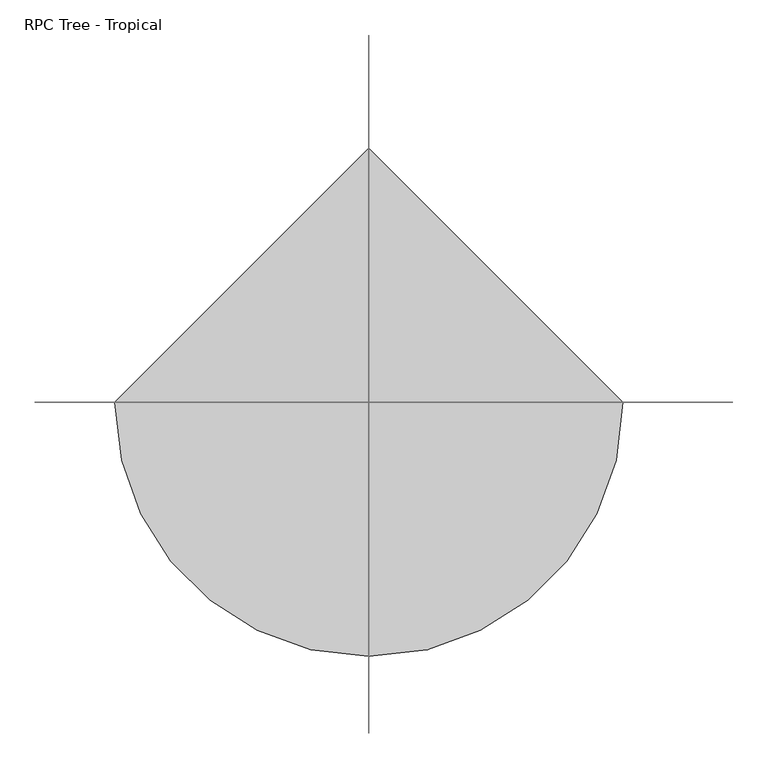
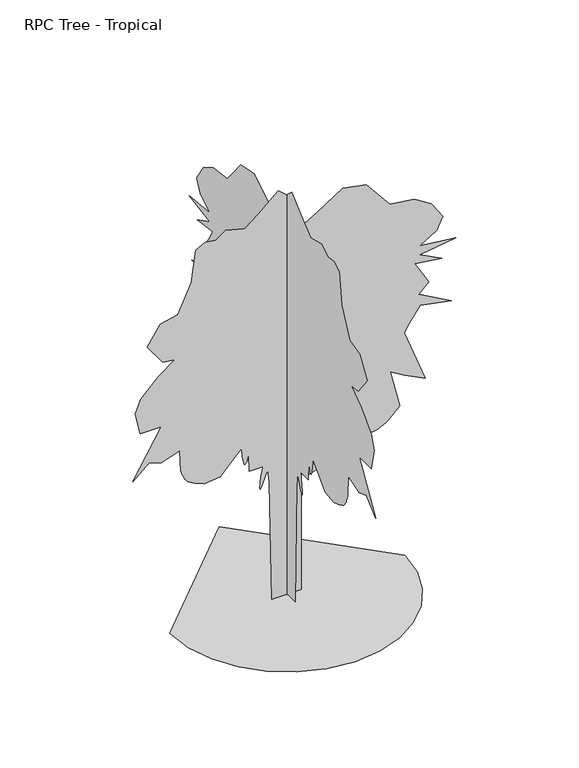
"""IFC4 building model written with IfcOpenShell, lengths in millimetres: geographic element geometry, RPC Tree - Tropical : Windmill Palm - 2.4 Meters."""

from ifc_helpers import new_model, si_unit, origin, place, context, project, spatial, triangles, source, transform, mapped, element, save


def rpc_tree_tropical_0b38fe0e(model_context):
    return source(origin(), model_context, "Body", "Tessellation", [
        triangles([(-0.0239184, -79.4097514, 0.0551874), (-0.0239176, -91.9790423, 697.2397087), (-0.0239171, -101.3513263, 772.2174723), (-0.0239166, -110.6598516, 747.6798712), (-0.0239159, -119.5858783, 724.5373158), (-0.0239154, -127.7469081, 704.1797647), (-0.0239151, -134.7601792, 688.0047346), (-0.0239146, -140.2432021, 677.4021841), (-0.0239146, -143.8137145, 673.7671589), (-0.0239144, -145.0887184, 678.4947046), (-0.0239144, -144.6334592, 689.5071865), (-0.0239146, -143.35821, 703.469779), (-0.0239146, -141.3999538, 719.8923231), (-0.0239149, -138.8951921, 738.2798635), (-0.0239151, -135.9806806, 758.1449301), (-0.0239151, -132.7926757, 778.9949656), (-0.0239154, -129.4681603, 800.3350874), (-0.0239109, -204.4468958, 800.3350874), (-0.0239106, -207.5709057, 900.3053661), (-0.0239104, -211.5784191, 886.3978575), (-0.0239101, -215.5314481, 873.3927647), (-0.0239101, -219.3749454, 862.18778), (-0.0239099, -223.0547171, 853.6902609), (-0.0239096, -226.5159702, 848.8002251), (-0.0239094, -229.7037299, 848.4176903), (-0.0239091, -232.5637479, 853.4452177), (-0.0239091, -235.1505086, 862.662751), (-0.0239089, -237.5732532, 874.0103142), (-0.0239089, -239.8595235, 887.1353125), (-0.0239086, -242.0362802, 901.6828983), (-0.0239086, -244.1312831, 917.2929193), (-0.0239084, -246.1715292, 933.6154696), (-0.0239084, -248.1842879, 950.2930126), (-0.0239014, -366.9011876, 825.3276752), (-0.0238961, -454.3764441, 815.9551369), (-0.0238949, -471.7089981, 822.6501497), (-0.0238939, -488.6040788, 829.3451626), (-0.0238931, -504.6241038, 836.0401754), (-0.0238921, -519.3341798, 842.7327175), (-0.0238914, -532.296688, 849.4277304), (-0.0238906, -543.0717207, 856.1227432), (-0.0238901, -551.2217683, 862.8177561), (-0.0238899, -557.5517962, 870.2402681), (-0.0238896, -563.2268131, 878.9753454), (-0.0238891, -568.3543344, 888.8028706), (-0.0238889, -573.0468169, 899.5053423), (-0.0238886, -577.4093413, 910.8629339), (-0.0238884, -581.5518574, 922.6579262), (-0.0238881, -585.5868582, 934.6704924), (-0.0238879, -591.8368764, 1056.5108751), (-0.0238816, -694.9322187, 1022.1457489), (-0.0238776, -763.6624712, 1047.1383368), (-0.0238721, -854.2602116, 965.9130621), (-0.0238816, -694.9322187, 1234.5864155), (-0.0238746, -813.6475742, 1234.5864155), (-0.0238729, -841.7651894, 1359.5492821), (-0.0238749, -810.5226196, 1437.6520729), (-0.0238806, -713.6772955, 1537.6224243), (-0.0238861, -619.9519844, 1606.3551476), (-0.0238821, -688.6822369, 1615.7252151), (-0.0238771, -773.0350096, 1731.3180141), (-0.0238814, -701.1797298, 1843.7858585), (-0.0238871, -604.3319349, 1865.6534191), (-0.0238916, -529.3542077, 2028.1090553), (-0.0238931, -504.3616199, 2212.429636), (-0.0238961, -451.2514532, 2240.5471058), (-0.0238996, -391.8937391, 2231.1745674), (-0.0239031, -335.6585815, 2271.7872047), (-0.0239094, -229.439738, 2243.6722057), (-0.0239139, -154.4612477, 2303.0299198), (-0.0239206, -41.9933852, 2399.8776421), (-0.0239259, 45.4816443, 2321.7749966), (-0.0239259, 45.4816443, 2228.0496128), (-0.0239291, 101.7153212, 2156.1968765), (-0.0239339, 179.81833, 2199.9344685), (-0.0239421, 317.2785261, 2290.5322815), (-0.0239499, 448.4914473, 2265.5397663), (-0.0239546, 529.7166856, 2165.5694149), (-0.0239576, 579.7043684, 2103.0867462), (-0.0239659, 717.1648006, 2084.3416695), (-0.0239716, 814.0125956, 2024.9839554), (-0.0239754, 876.4927935, 1928.1362331), (-0.0239734, 842.1276672, 1859.4059807), (-0.0239676, 748.4048996, 1800.0482666), (-0.0239796, 948.3480005, 1778.180706), (-0.0239676, 748.4048996, 1746.9381363), (-0.0239749, 870.2452824, 1684.4553223), (-0.0239661, 720.2872845, 1703.200399), (-0.0239706, 798.3900753, 1568.864994), (-0.0239674, 742.1573885, 1515.7548637), (-0.0239781, 923.3554853, 1412.6595577), (-0.0239679, 751.5299269, 1447.0246113), (-0.0239641, 689.0471855, 1362.674382), (-0.0239624, 660.9296431, 1315.8116901), (-0.0239696, 779.6449986, 1006.5256994), (-0.0239626, 664.0545977, 1062.7609297), (-0.0239579, 582.8268522, 1112.7460327), (-0.0239609, 635.9370552, 894.057855), (-0.0239571, 570.33183, 828.4526299), (-0.0239564, 557.6242845, 821.1375967), (-0.0239556, 545.0017264, 814.1250887), (-0.0239549, 532.5416948, 807.7126167), (-0.0239541, 520.3266701, 802.2025606), (-0.0239534, 508.4416397, 797.8950474), (-0.0239526, 496.9641063, 795.0875153), (-0.0239521, 485.9815644, 794.0875763), (-0.0239514, 475.0865172, 794.9075117), (-0.0239509, 463.8664899, 797.2025751), (-0.0239501, 452.371443, 800.727578), (-0.0239494, 440.6588948, 805.235079), (-0.0239486, 428.7813858, 810.4825785), (-0.0239479, 416.7938181, 816.2200916), (-0.0239471, 404.7537827, 822.202648), (-0.0239471, 401.3562793, 826.1926661), (-0.0239469, 397.6587579, 830.0176506), (-0.0239466, 393.358766, 833.5151842), (-0.0239461, 388.1587564, 836.5227041), (-0.0239459, 381.7562038, 838.872706), (-0.0239454, 373.8486923, 840.4026999), (-0.0239449, 364.1411817, 840.9477247), (-0.0239441, 351.5161165, 842.4051939), (-0.0239431, 335.4485653, 846.4851774), (-0.0239419, 316.5135292, 852.7527454), (-0.0239406, 295.2834479, 860.7677359), (-0.0239394, 272.33087, 870.0952915), (-0.0239379, 248.2297975, 880.295323), (-0.0239364, 223.5557221, 890.9328278), (-0.0239341, 182.9423399, 844.0726793), (-0.0239341, 182.9423399, 765.9699612), (-0.0239354, 204.8106636, 690.9921976), (-0.0239309, 129.8324186, 665.9996098), (-0.0239281, 86.0950265, 787.8375217), (-0.0239286, 86.7090242, 0.0), (-656.1204889, -2.5e-06, 0.2095084), (-638.7804136, -150.2749844, 0.2095089), (-589.4027226, -288.2784249, 0.2095104), (-511.9349585, -410.0563296, 0.2095127), (-410.3371264, -511.6566324, 0.2095157), (-288.559258, -589.1218895, 0.2095194), (-150.5555632, -638.4995441, 0.2095234), (-0.2807655, -655.8396194, 0.2095279), (149.9941512, -638.4995441, 0.2095324), (287.9975917, -589.1218895, 0.2095364), (409.7754965, -511.6541253, 0.2095402), (511.3757993, -410.0563296, 0.2095432), (588.8410563, -288.2784249, 0.2095454), (638.2186747, -150.27473, 0.2095469), (655.55875, 5.73e-05, 0.2095474), (-0.2808805, 655.8396194, 0.2095279), (-87.7383582, 0.0001432, 0.1864386), (-100.3076491, 0.000104, 697.3697153), (-109.6799332, 9.81e-05, 772.3499496), (-118.9884584, 0.0001008, 747.8124212), (-127.9144851, 0.0001007, 724.6673223), (-136.0752606, 0.0001035, 704.3122421), (-143.0885407, 0.0001033, 688.1346685), (-148.5717998, 0.0001032, 677.5321907), (-152.142067, 0.0001058, 673.8996363), (-153.4173253, 0.0001027, 678.627182), (-152.9618298, 0.0001024, 689.6371931), (-151.6868168, 0.0001021, 703.5997856), (-149.7285606, 0.0001018, 720.0223297), (-147.2237989, 0.0001015, 738.4123409), (-144.3090422, 9.83e-05, 758.2774075), (-141.1212826, 9.79e-05, 779.1249722), (-137.7967671, 9.76e-05, 800.465094), (-212.7752755, 9.66e-05, 800.465094), (-215.8992854, 9.05e-05, 900.4379162), (-219.907035, 9.06e-05, 886.5303349), (-223.8598097, 9.35e-05, 873.5227713), (-227.7035613, 9.35e-05, 862.3202574), (-231.383333, 9.34e-05, 853.8227383), (-234.8443318, 9.32e-05, 848.9302317), (-238.0323458, 9.29e-05, 848.5476969), (-240.8921094, 9.25e-05, 853.5752243), (-243.4791245, 9.2e-05, 862.7927576), (-245.9018691, 9.15e-05, 874.1427916), (-248.187885, 9.09e-05, 887.2678625), (-250.364133, 9.03e-05, 901.8129049), (-252.4591541, 8.96e-05, 917.4254694), (-254.4991459, 8.89e-05, 933.7454762), (-256.5116502, 8.83e-05, 950.4230192), (-375.229531, 9.57e-05, 825.4601526), (-462.7047875, 9.68e-05, 816.0876143), (-480.0373415, 9.51e-05, 822.7801563), (-496.9324222, 9.62e-05, 829.4751692), (-512.9524472, 9.46e-05, 836.170182), (-527.6625232, 9.31e-05, 842.8651949), (-540.6250314, 9.46e-05, 849.5602077), (-551.4001004, 9.34e-05, 856.2527498), (-559.5501117, 9.25e-05, 862.9477627), (-565.8801395, 9.17e-05, 870.3702747), (-571.5551565, 9.1e-05, 879.1052794), (-576.6826778, 9.02e-05, 888.9328772), (-581.3751966, 9.23e-05, 899.6353489), (-585.7376847, 9.16e-05, 910.9929405), (-589.8802008, 9.09e-05, 922.7879328), (-593.9152379, 9.02e-05, 934.8029697), (-600.1652561, 8.02e-05, 1056.6433525), (-703.2606348, 8.35e-05, 1022.278299), (-771.9908146, 8.24e-05, 1047.2708868), (-862.5886276, 8.82e-05, 966.0430687), (-703.2606348, 7.15e-05, 1234.7164948), (-821.9759903, 7.23e-05, 1234.7164948), (-850.0936054, 6.32e-05, 1359.6818321), (-818.850963, 5.79e-05, 1437.784623), (-722.0056389, 5.21e-05, 1537.7549744), (-628.2804005, 4.98e-05, 1606.4850815), (-697.0105803, 4.92e-05, 1615.8576199), (-781.363353, 4.11e-05, 1731.4505642), (-709.5081459, 3.55e-05, 1843.9159378), (-612.660351, 3.2e-05, 1865.7859692), (-537.6825511, 2.24e-05, 2028.2389893), (-512.6899632, 1.34e-05, 2212.5620407), (-459.5797966, 1.15e-05, 2240.6796558), (-400.2220825, 1.14e-05, 2231.3071175), (-343.9869249, 9.4e-06, 2271.9197548), (-237.7683539, 1.11e-05, 2243.8021397), (-162.7896093, 7.5e-06, 2303.1598537), (-50.3217376, 3e-07, 2400.0077213), (37.1530375, 7.5e-06, 2321.9049305), (37.1530375, 1.32e-05, 2228.1821629), (93.3867235, 1.75e-05, 2156.3269558), (171.4897141, 1.45e-05, 2200.0645477), (308.9501827, 6.9e-06, 2290.6648315), (440.1631039, 1.07e-05, 2265.6723164), (521.3883422, 1.52e-05, 2165.6994942), (571.376025, 1.87e-05, 2103.2166801), (708.8363846, 2e-05, 2084.4742195), (805.6817087, 2.47e-05, 2025.1140347), (868.1644501, 3.03e-05, 1928.2686378), (833.7993238, 3.5e-05, 1859.5383854), (740.0764835, 3.71e-05, 1800.1808167), (940.0196571, 3.83e-05, 1778.31064), (740.0764835, 4.15e-05, 1747.070541), (861.9168663, 4.28e-05, 1684.5878723), (711.9589411, 4.32e-05, 1703.3329491), (790.0616592, 5.13e-05, 1568.9950733), (733.8289724, 5.36e-05, 1515.8874138), (915.0270693, 6.14e-05, 1412.7894917), (743.2015108, 5.94e-05, 1447.1571613), (680.7188421, 6.2e-05, 1362.8043159), (652.601227, 6.67e-05, 1315.9442402), (771.3165825, 8.36e-05, 1006.6582495), (655.7262543, 8.02e-05, 1062.8909363), (574.4985088, 7.72e-05, 1112.8760393), (627.6086391, 9.14e-05, 894.1903324), (562.0034866, 9.61e-05, 828.5826365), (549.2959411, 9.52e-05, 821.2701468), (536.673383, 9.71e-05, 814.2550953), (524.2133514, 9.62e-05, 807.8450941), (511.9983267, 9.81e-05, 802.3325672), (500.1132963, 9.72e-05, 798.025054), (488.6357265, 9.63e-05, 795.2200653), (477.6507139, 9.82e-05, 794.2175102), (466.7581738, 9.72e-05, 795.0375183), (455.5381465, 9.61e-05, 797.3325817), (444.0430996, 9.79e-05, 800.8575846), (432.3305514, 9.67e-05, 805.3675564), (420.4530424, 9.55e-05, 810.6125851), (408.4654747, 9.71e-05, 816.3500982), (396.4254393, 9.58e-05, 822.3351254), (393.0279359, 9.54e-05, 826.3251434), (389.3304145, 9.5e-05, 830.150128), (385.0304226, 9.45e-05, 833.6476616), (379.830413, 9.39e-05, 836.6527107), (373.4278605, 9.33e-05, 839.0027126), (365.5203489, 9.54e-05, 840.5327065), (355.8128019, 9.45e-05, 841.0802021), (343.1877731, 9.34e-05, 842.5376713), (327.1202219, 9.47e-05, 846.6177275), (308.1851495, 9.28e-05, 852.882752), (286.9550863, 9.35e-05, 860.8977425), (264.0025084, 9.41e-05, 870.2252981), (239.9011816, 9.16e-05, 880.4278004), (215.2271062, 9.2e-05, 891.0653778), (174.613724, 9.55e-05, 844.2026859), (174.613724, 9.78e-05, 766.0999678), (196.4822838, 0.000102, 691.1222042), (121.504057, 0.0001047, 666.1296164), (77.7664196, 9.71e-05, 787.9699991), (78.3804265, 0.0001436, 0.1312562)], [[85, 84, 86], [53, 52, 54], [91, 90, 92], [87, 86, 88], [95, 94, 96], [96, 94, 97], [9, 8, 10], [52, 51, 54], [51, 50, 54], [1, 133, 2], [133, 132, 2], [2, 132, 3], [131, 130, 132], [130, 129, 132], [129, 128, 132], [18, 17, 19], [71, 70, 72], [72, 70, 73], [10, 8, 11], [8, 7, 11], [11, 7, 12], [7, 6, 12], [12, 6, 13], [6, 5, 13], [13, 5, 14], [5, 4, 14], [14, 4, 15], [4, 3, 15], [15, 3, 16], [16, 3, 17], [55, 54, 56], [89, 88, 90], [56, 54, 57], [57, 54, 58], [61, 60, 62], [62, 60, 63], [60, 59, 63], [25, 24, 26], [24, 23, 26], [26, 23, 27], [23, 22, 27], [27, 22, 28], [22, 21, 28], [28, 21, 29], [21, 20, 29], [29, 20, 30], [20, 19, 30], [30, 19, 31], [82, 81, 83], [83, 81, 84], [81, 80, 84], [80, 79, 84], [70, 69, 73], [98, 97, 99], [31, 19, 32], [99, 97, 100], [58, 54, 59], [100, 97, 101], [101, 97, 102], [102, 97, 103], [103, 97, 104], [104, 97, 105], [105, 97, 106], [106, 97, 107], [107, 97, 108], [108, 97, 109], [109, 97, 110], [110, 97, 111], [111, 97, 112], [112, 97, 113], [113, 97, 114], [114, 97, 115], [115, 97, 116], [116, 97, 117], [117, 97, 118], [118, 97, 119], [119, 97, 120], [120, 97, 121], [121, 97, 122], [122, 97, 123], [123, 97, 124], [124, 97, 125], [125, 97, 126], [126, 97, 127], [65, 64, 66], [66, 64, 67], [68, 67, 69], [67, 64, 69], [3, 132, 17], [73, 69, 74], [69, 64, 74], [64, 63, 74], [63, 59, 74], [17, 132, 19], [132, 128, 19], [128, 127, 19], [92, 90, 93], [76, 75, 77], [77, 75, 78], [78, 75, 79], [79, 75, 84], [75, 74, 84], [74, 59, 84], [84, 59, 86], [86, 59, 88], [88, 59, 90], [90, 59, 93], [93, 59, 94], [94, 59, 97], [97, 59, 127], [127, 59, 19], [32, 19, 33], [19, 59, 33], [59, 54, 33], [54, 50, 33], [33, 50, 34], [50, 49, 34], [34, 49, 35], [35, 49, 36], [36, 49, 37], [49, 48, 37], [37, 48, 38], [48, 47, 38], [38, 47, 39], [47, 46, 39], [39, 46, 40], [46, 45, 40], [45, 44, 40], [40, 44, 41], [44, 43, 41], [41, 43, 42], [148, 149, 134], [147, 148, 134], [147, 134, 135], [146, 147, 135], [146, 135, 136], [146, 136, 137], [145, 146, 137], [144, 145, 137], [144, 137, 138], [144, 138, 139], [144, 139, 140], [144, 140, 141], [144, 141, 142], [144, 142, 143], [233, 234, 235], [201, 202, 203], [239, 240, 241], [235, 236, 237], [243, 244, 245], [243, 245, 246], [157, 158, 159], [200, 201, 203], [199, 200, 203], [282, 150, 151], [281, 282, 151], [281, 151, 152], [279, 280, 281], [278, 279, 281], [277, 278, 281], [166, 167, 168], [219, 220, 221], [219, 221, 222], [157, 159, 160], [156, 157, 160], [156, 160, 161], [155, 156, 161], [155, 161, 162], [154, 155, 162], [154, 162, 163], [153, 154, 163], [153, 163, 164], [152, 153, 164], [152, 164, 165], [152, 165, 166], [203, 204, 205], [237, 238, 239], [203, 205, 206], [203, 206, 207], [209, 210, 211], [209, 211, 212], [208, 209, 212], [173, 174, 175], [172, 173, 175], [172, 175, 176], [171, 172, 176], [171, 176, 177], [170, 171, 177], [170, 177, 178], [169, 170, 178], [169, 178, 179], [168, 169, 179], [168, 179, 180], [230, 231, 232], [230, 232, 233], [229, 230, 233], [228, 229, 233], [218, 219, 222], [246, 247, 248], [168, 180, 181], [246, 248, 249], [203, 207, 208], [246, 249, 250], [246, 250, 251], [246, 251, 252], [246, 252, 253], [246, 253, 254], [246, 254, 255], [246, 255, 256], [246, 256, 257], [246, 257, 258], [246, 258, 259], [246, 259, 260], [246, 260, 261], [246, 261, 262], [246, 262, 263], [246, 263, 264], [246, 264, 265], [246, 265, 266], [246, 266, 267], [246, 267, 268], [246, 268, 269], [246, 269, 270], [246, 270, 271], [246, 271, 272], [246, 272, 273], [246, 273, 274], [246, 274, 275], [246, 275, 276], [213, 214, 215], [213, 215, 216], [216, 217, 218], [213, 216, 218], [281, 152, 166], [218, 222, 223], [213, 218, 223], [212, 213, 223], [208, 212, 223], [281, 166, 168], [277, 281, 168], [276, 277, 168], [239, 241, 242], [224, 225, 226], [224, 226, 227], [224, 227, 228], [224, 228, 233], [223, 224, 233], [208, 223, 233], [208, 233, 235], [208, 235, 237], [208, 237, 239], [208, 239, 242], [208, 242, 243], [208, 243, 246], [208, 246, 276], [208, 276, 168], [168, 181, 182], [208, 168, 182], [203, 208, 182], [199, 203, 182], [199, 182, 183], [198, 199, 183], [198, 183, 184], [198, 184, 185], [198, 185, 186], [197, 198, 186], [197, 186, 187], [196, 197, 187], [196, 187, 188], [195, 196, 188], [195, 188, 189], [194, 195, 189], [193, 194, 189], [193, 189, 190], [192, 193, 190], [192, 190, 191]], closed=False),
    ])


if __name__ == "__main__":
    model = new_model("IFC4")
    model_context = context("Model", 3, world=origin())
    ifc_project = project(units=[si_unit("LENGTHUNIT", "METRE", prefix="MILLI")], contexts=[model_context])
    site = spatial("IfcSite", under=ifc_project)
    building = spatial("IfcBuilding", under=site)
    placement = place(None, origin())
    rpc_tree_tropical_shape = rpc_tree_tropical_0b38fe0e(model_context)
    element("IfcGeographicElement", 1, ObjectType="RPC Tree - Tropical : Windmill Palm - 2.4 Meters", at=placement, inside=building, context=model_context, shape_type="MappedRepresentation", body=[
        mapped(rpc_tree_tropical_shape, transform((0.0, 0.0, 0.0), x_axis=(1.0, 0.0, 0.0), y_axis=(0.0, 1.0, 0.0), z_axis=(0.0, 0.0, 1.0))),
    ])
    save(model, "model.ifc")
